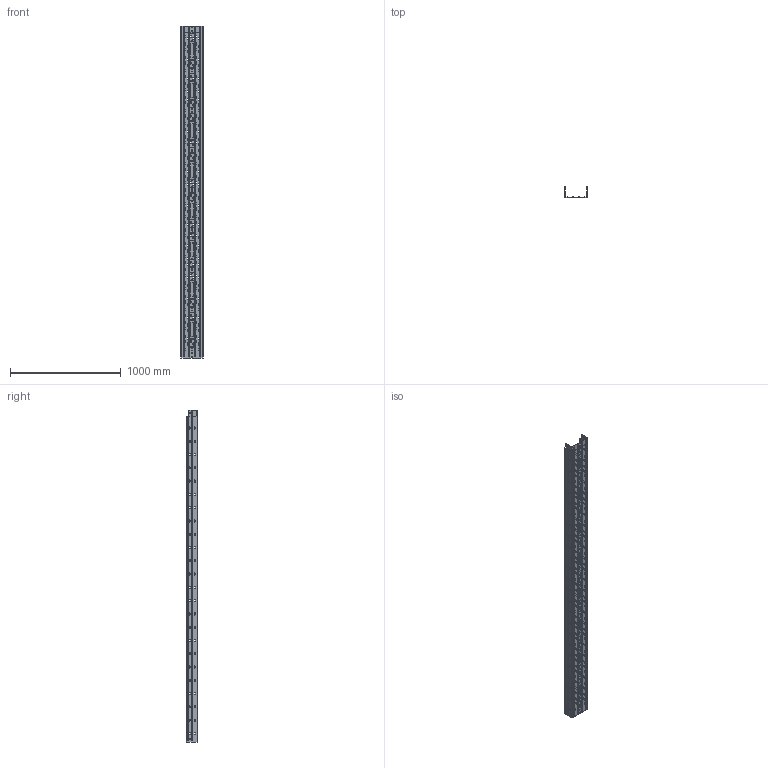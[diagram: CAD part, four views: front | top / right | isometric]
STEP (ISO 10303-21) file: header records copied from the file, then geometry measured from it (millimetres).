
FILE_DESCRIPTION (( 'STEP AP203' ), '1' );
FILE_NAME ('ERE 200x100 200x100.step', '2023-07-27T17:17:53', ( '' ), ( '' ), 'SwSTEP 2.0', 'SolidWorks 2022', '' );
FILE_SCHEMA (( 'CONFIG_CONTROL_DESIGN' ));
Products named in the file (1): ERE 200x100 200x100
Bounding box: 200 x 100.8 x 3000 mm (x, y, z)
Volume: 722827.4 mm3; surface area: 2404476.8 mm2
Topology: 1 solids, 1 shells, 11700 faces, 34412 edges, 22796 vertices
Faces by surface type: plane 10502, cylinder 1078, torus 64, cone 52, bspline 4
Entity records: 384107 total; most frequent: CARTESIAN_POINT 69303, ORIENTED_EDGE 68824, DIRECTION 59920, EDGE_CURVE 34412, LINE 32070, VECTOR 32070, VERTEX_POINT 22796, AXIS2_PLACEMENT_3D 13925
